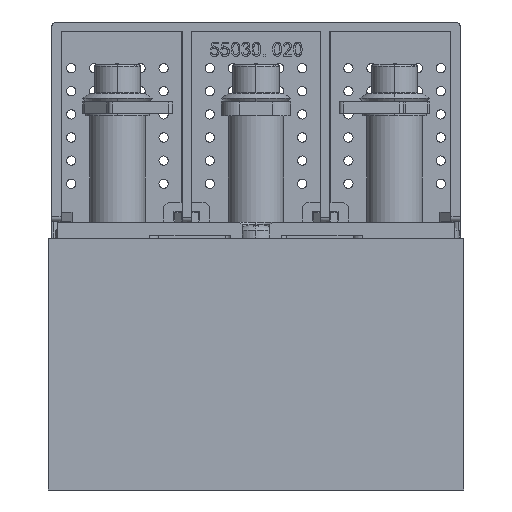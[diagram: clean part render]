
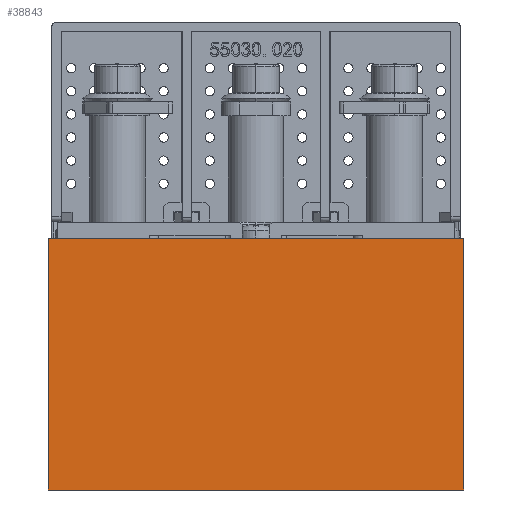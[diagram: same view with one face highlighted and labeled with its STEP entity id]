
A CAD part, left-side view. The second image highlights one B-rep face of the part: STEP entity #38843.
In plain terms, the highlighted planar face has unit normal (-1, 0, 0).
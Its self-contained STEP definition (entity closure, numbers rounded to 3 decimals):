
#697 = ORIENTED_EDGE ( 'NONE', *, *, #3088, .T. ) ;
#2083 = ORIENTED_EDGE ( 'NONE', *, *, #3392, .F. ) ;
#3088 = EDGE_CURVE ( 'NONE', #56086, #3180, #13499, .T. ) ;
#3180 = VERTEX_POINT ( 'NONE', #8503 ) ;
#3392 = EDGE_CURVE ( 'NONE', #76869, #71892, #54120, .T. ) ;
#5663 = CARTESIAN_POINT ( 'NONE',  ( -124.11, 0., 220.35 ) ) ;
#7222 = VECTOR ( 'NONE', #105265, 1000. ) ;
#8503 = CARTESIAN_POINT ( 'NONE',  ( -124.11, -39.537, 165.85 ) ) ;
#10939 = CARTESIAN_POINT ( 'NONE',  ( -124.11, 50.463, 165.85 ) ) ;
#11033 = AXIS2_PLACEMENT_3D ( 'NONE', #56134, #15916, #98493 ) ;
#13499 = LINE ( 'NONE', #10939, #66932 ) ;
#15916 = DIRECTION ( 'NONE',  ( -1., 0., 0. ) ) ;
#24969 = EDGE_CURVE ( 'NONE', #71892, #3180, #48136, .T. ) ;
#26856 = LINE ( 'NONE', #100613, #69469 ) ;
#30807 = PLANE ( 'NONE',  #11033 ) ;
#38843 = ADVANCED_FACE ( 'NONE', ( #46786 ), #30807, .T. ) ;
#43368 = DIRECTION ( 'NONE',  ( 0., 0., -1. ) ) ;
#46786 = FACE_OUTER_BOUND ( 'NONE', #95233, .T. ) ;
#48136 = LINE ( 'NONE', #81724, #73978 ) ;
#48646 = CARTESIAN_POINT ( 'NONE',  ( -124.11, 50.463, 165.85 ) ) ;
#54120 = LINE ( 'NONE', #5663, #7222 ) ;
#55329 = DIRECTION ( 'NONE',  ( 0., -1., 0. ) ) ;
#56086 = VERTEX_POINT ( 'NONE', #48646 ) ;
#56134 = CARTESIAN_POINT ( 'NONE',  ( -124.11, 50.463, 165.85 ) ) ;
#57488 = DIRECTION ( 'NONE',  ( 0., 0., -1. ) ) ;
#66932 = VECTOR ( 'NONE', #55329, 1000. ) ;
#69469 = VECTOR ( 'NONE', #43368, 1000. ) ;
#71892 = VERTEX_POINT ( 'NONE', #105209 ) ;
#73978 = VECTOR ( 'NONE', #57488, 1000. ) ;
#74163 = EDGE_CURVE ( 'NONE', #76869, #56086, #26856, .T. ) ;
#76869 = VERTEX_POINT ( 'NONE', #80488 ) ;
#80488 = CARTESIAN_POINT ( 'NONE',  ( -124.11, 50.463, 220.35 ) ) ;
#81724 = CARTESIAN_POINT ( 'NONE',  ( -124.11, -39.537, 165.85 ) ) ;
#92235 = ORIENTED_EDGE ( 'NONE', *, *, #24969, .F. ) ;
#95233 = EDGE_LOOP ( 'NONE', ( #697, #92235, #2083, #101398 ) ) ;
#98493 = DIRECTION ( 'NONE',  ( 0., 0., 1. ) ) ;
#100613 = CARTESIAN_POINT ( 'NONE',  ( -124.11, 50.463, 165.85 ) ) ;
#101398 = ORIENTED_EDGE ( 'NONE', *, *, #74163, .T. ) ;
#105209 = CARTESIAN_POINT ( 'NONE',  ( -124.11, -39.537, 220.35 ) ) ;
#105265 = DIRECTION ( 'NONE',  ( 0., -1., 0. ) ) ;
